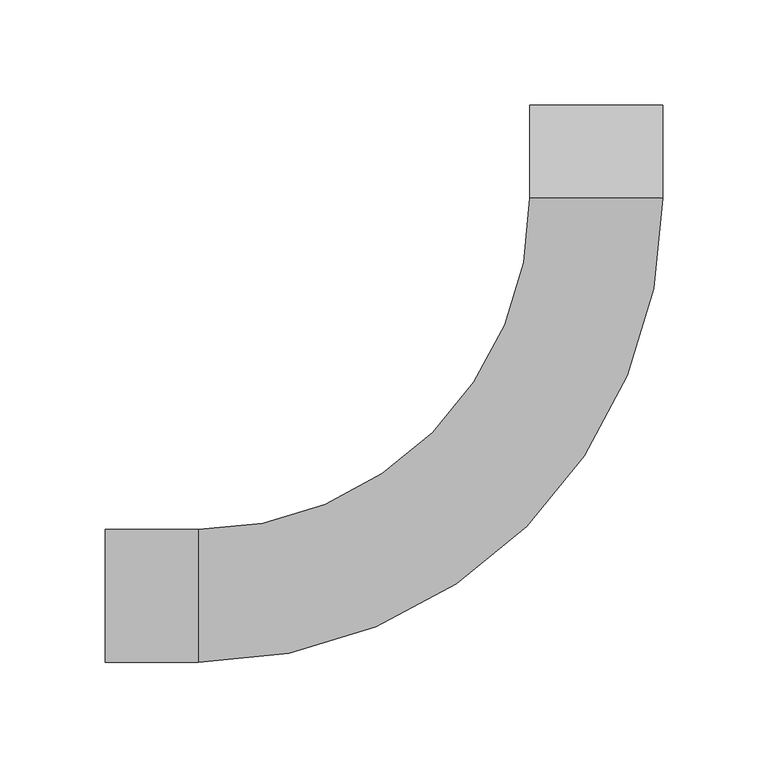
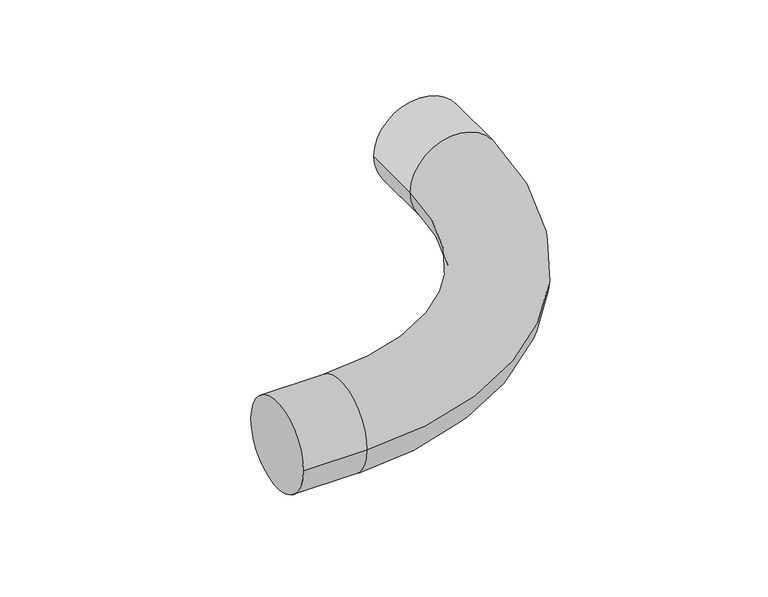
"""IFC4 building model written with IfcOpenShell, lengths in millimetres: cable carrier fitting geometry, Отвод Трубы гладкие жесткие ПВХ : Отвод Трубы гладкие жесткие ПВХ."""

from ifc_helpers import new_model, si_unit, point, frame, origin, place, context, project, spatial, circle_curve, ellipse_curve, trimmed, source, transform, mapped, element, save
from ifc_brep_helpers import plane_surface, cylinder_surface, revolved_surface, advanced_brep


def cable_carrier_fitting_36980800(model_context):
    return source(origin(), model_context, "Body", "AdvancedBrep", [
        advanced_brep(
        [(-232.98, -31.5, 0.0), (-232.98, 31.5, 0.0), (-189.0, -31.5, 0.0), (-189.0, 31.5, 0.0), (-31.5, 189.0, 0.0), (31.5, 189.0, 0.0), (31.5, 232.98, 0.0), (-31.5, 232.98, 0.0)],
        [
            (0, 1, circle_curve(frame((-232.98, 0.0, 0.0), z_axis=(-1.0, 0.0, 0.0), x_axis=(0.0, 1.0, 0.0)), 31.5)),
            (1, 0, circle_curve(frame((-232.98, 0.0, 0.0), z_axis=(-1.0, 0.0, 0.0), x_axis=(0.0, 1.0, 0.0)), 31.5)),
            (0, 2),
            (2, 3, circle_curve(frame((-189.0, 0.0, 0.0), z_axis=(-1.0, 0.0, 0.0), x_axis=(0.0, 1.0, 0.0)), 31.5)),
            (3, 1),
            (3, 2, circle_curve(frame((-189.0, 0.0, 0.0), z_axis=(-1.0, 0.0, 0.0), x_axis=(0.0, 1.0, 0.0)), 31.5)),
            (4, 3, circle_curve(frame((-189.0, 189.0, 0.0), z_axis=(0.0, 0.0, -1.0), x_axis=(0.0, -1.0, 0.0)), 157.5)),
            (2, 5, circle_curve(frame((-189.0, 189.0, 0.0), z_axis=(0.0, 0.0, 1.0), x_axis=(0.0, -1.0, 0.0)), 220.5)),
            (5, 4, circle_curve(frame((0.0, 189.0, 0.0), z_axis=(0.0, -1.0, 0.0), x_axis=(-1.0, 0.0, 0.0)), 31.5)),
            (4, 5, circle_curve(frame((0.0, 189.0, 0.0), z_axis=(0.0, -1.0, 0.0), x_axis=(-1.0, 0.0, 0.0)), 31.5)),
            (6, 7, circle_curve(frame((0.0, 232.98, 0.0), z_axis=(0.0, 1.0, 0.0), x_axis=(-1.0, 0.0, 0.0)), 31.5)),
            (7, 6, circle_curve(frame((0.0, 232.98, 0.0), z_axis=(0.0, 1.0, 0.0), x_axis=(-1.0, 0.0, 0.0)), 31.5)),
            (5, 6),
            (7, 4),
        ],
        [
            plane_surface(frame((-232.98, 0.0, 0.0), z_axis=(-1.0, 0.0, 0.0), x_axis=(0.0, 0.0, 1.0))),
            cylinder_surface(frame((-232.98, 0.0, 0.0), z_axis=(-1.0, 0.0, 0.0), x_axis=(0.0, 1.0, 0.0)), 31.5),
            revolved_surface(trimmed(ellipse_curve(frame((-189.0, 0.0, 0.0), z_axis=(-1.0, 0.0, 0.0), x_axis=(0.0, 1.0, 0.0)), 31.5, 31.5), [point((-189.0, -31.5, 0.0))], [point((-189.0, 31.5, 0.0))], True, "CARTESIAN"), (-189.0, 189.0, 0.0), (0.0, 0.0, 1.0)),
            revolved_surface(trimmed(ellipse_curve(frame((-189.0, 0.0, 0.0), z_axis=(-1.0, 0.0, 0.0), x_axis=(0.0, 1.0, 0.0)), 31.5, 31.5), [point((-189.0, 31.5, 0.0))], [point((-189.0, -31.5, 0.0))], True, "CARTESIAN"), (-189.0, 189.0, 0.0), (0.0, 0.0, 1.0)),
            plane_surface(frame((0.0, 232.98, 0.0), z_axis=(0.0, 1.0, 0.0), x_axis=(0.0, 0.0, 1.0))),
            cylinder_surface(frame((0.0, 189.0, 0.0), z_axis=(0.0, -1.0, 0.0), x_axis=(-1.0, 0.0, 0.0)), 31.5),
        ],
        [
            (0, [[1, 2]]),
            (1, [[-1, 3, 4, 5]]),
            (1, [[-2, -5, 6, -3]]),
            (2, [[7, -4, 8, 9]]),
            (3, [[-8, -6, -7, 10]]),
            (4, [[11, 12]]),
            (5, [[-9, 13, -12, 14]]),
            (5, [[-10, -14, -11, -13]]),
        ],
    ),
    ])


if __name__ == "__main__":
    model = new_model("IFC4")
    model_context = context("Model", 3, world=origin())
    ifc_project = project(units=[si_unit("LENGTHUNIT", "METRE", prefix="MILLI")], contexts=[model_context])
    site = spatial("IfcSite", under=ifc_project)
    building = spatial("IfcBuilding", under=site)
    placement = place(None, origin())
    cable_carrier_fitting_shape = cable_carrier_fitting_36980800(model_context)
    element("IfcCableCarrierFitting", 1, ObjectType="Отвод Трубы гладкие жесткие ПВХ : Отвод Трубы гладкие жесткие ПВХ", at=placement, inside=building, context=model_context, shape_type="MappedRepresentation", body=[
        mapped(cable_carrier_fitting_shape, transform((0.0, 0.0, 0.0), x_axis=(1.0, 0.0, 0.0), y_axis=(0.0, 1.0, 0.0), z_axis=(0.0, 0.0, 1.0))),
    ])
    save(model, "model.ifc")
